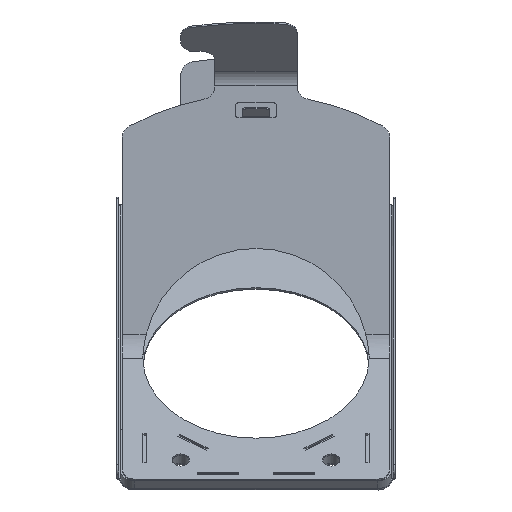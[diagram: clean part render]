
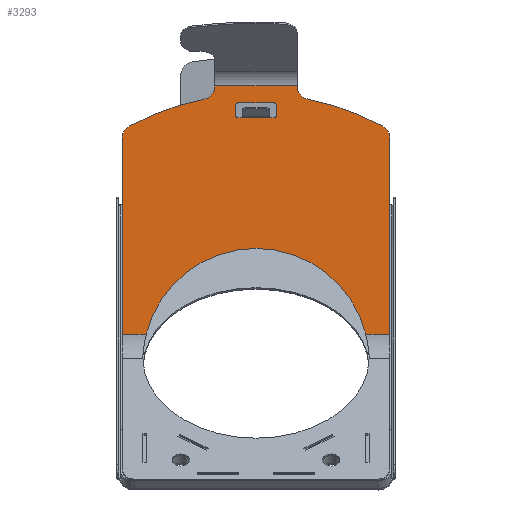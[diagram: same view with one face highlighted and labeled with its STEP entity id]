
A CAD part, top view. The second image highlights one B-rep face of the part: STEP entity #3293.
In plain terms, the highlighted planar face has unit normal (0, 0, 1) as drawn and (0, -1, 0) by its records, which use the part's own axes.
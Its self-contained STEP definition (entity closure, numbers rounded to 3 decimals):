
#3132 = VERTEX_POINT('',#3133);
#3133 = CARTESIAN_POINT('',(16.007,-27.909,
    -7.472));
#3149 = VERTEX_POINT('',#3150);
#3150 = CARTESIAN_POINT('',(0.,-27.909,
    5.026));
#3156 = EDGE_CURVE('',#3132,#3149,#3157,.T.);
#3157 = CIRCLE('',#3158,16.5);
#3158 = AXIS2_PLACEMENT_3D('',#3159,#3160,#3161);
#3159 = CARTESIAN_POINT('',(0.,-27.909,
    -11.474));
#3160 = DIRECTION('',(0.,-1.,0.));
#3161 = DIRECTION('',(0.,0.,1.));
#3293 = ADVANCED_FACE('',(#3294,#3380),#3484,.F.);
#3294 = FACE_BOUND('',#3295,.T.);
#3295 = EDGE_LOOP('',(#3296,#3307,#3315,#3324,#3332,#3340,#3348,#3357,
    #3365,#3374));
#3296 = ORIENTED_EDGE('',*,*,#3297,.F.);
#3297 = EDGE_CURVE('',#3298,#3300,#3302,.T.);
#3298 = VERTEX_POINT('',#3299);
#3299 = CARTESIAN_POINT('',(3.,-27.909,25.776));
#3300 = VERTEX_POINT('',#3301);
#3301 = CARTESIAN_POINT('',(2.5,-27.909,26.276));
#3302 = CIRCLE('',#3303,0.5);
#3303 = AXIS2_PLACEMENT_3D('',#3304,#3305,#3306);
#3304 = CARTESIAN_POINT('',(2.5,-27.909,25.776));
#3305 = DIRECTION('',(0.,-1.,0.));
#3306 = DIRECTION('',(0.,0.,-1.));
#3307 = ORIENTED_EDGE('',*,*,#3308,.F.);
#3308 = EDGE_CURVE('',#3309,#3298,#3311,.T.);
#3309 = VERTEX_POINT('',#3310);
#3310 = CARTESIAN_POINT('',(3.,-27.909,24.569));
#3311 = LINE('',#3312,#3313);
#3312 = CARTESIAN_POINT('',(3.,-27.909,-11.474));
#3313 = VECTOR('',#3314,1.);
#3314 = DIRECTION('',(0.,0.,1.));
#3315 = ORIENTED_EDGE('',*,*,#3316,.F.);
#3316 = EDGE_CURVE('',#3317,#3309,#3319,.T.);
#3317 = VERTEX_POINT('',#3318);
#3318 = CARTESIAN_POINT('',(2.5,-27.909,24.069));
#3319 = CIRCLE('',#3320,0.5);
#3320 = AXIS2_PLACEMENT_3D('',#3321,#3322,#3323);
#3321 = CARTESIAN_POINT('',(2.5,-27.909,24.569));
#3322 = DIRECTION('',(0.,-1.,0.));
#3323 = DIRECTION('',(0.,0.,-1.));
#3324 = ORIENTED_EDGE('',*,*,#3325,.F.);
#3325 = EDGE_CURVE('',#3326,#3317,#3328,.T.);
#3326 = VERTEX_POINT('',#3327);
#3327 = CARTESIAN_POINT('',(2.,-27.909,24.069));
#3328 = LINE('',#3329,#3330);
#3329 = CARTESIAN_POINT('',(0.,-27.909,
    24.069));
#3330 = VECTOR('',#3331,1.);
#3331 = DIRECTION('',(1.,0.,0.));
#3332 = ORIENTED_EDGE('',*,*,#3333,.F.);
#3333 = EDGE_CURVE('',#3334,#3326,#3336,.T.);
#3334 = VERTEX_POINT('',#3335);
#3335 = CARTESIAN_POINT('',(-2.,-27.909,24.069));
#3336 = LINE('',#3337,#3338);
#3337 = CARTESIAN_POINT('',(0.,-27.909,
    24.069));
#3338 = VECTOR('',#3339,1.);
#3339 = DIRECTION('',(1.,0.,0.));
#3340 = ORIENTED_EDGE('',*,*,#3341,.F.);
#3341 = EDGE_CURVE('',#3342,#3334,#3344,.T.);
#3342 = VERTEX_POINT('',#3343);
#3343 = CARTESIAN_POINT('',(-2.5,-27.909,24.069));
#3344 = LINE('',#3345,#3346);
#3345 = CARTESIAN_POINT('',(0.,-27.909,
    24.069));
#3346 = VECTOR('',#3347,1.);
#3347 = DIRECTION('',(1.,0.,0.));
#3348 = ORIENTED_EDGE('',*,*,#3349,.F.);
#3349 = EDGE_CURVE('',#3350,#3342,#3352,.T.);
#3350 = VERTEX_POINT('',#3351);
#3351 = CARTESIAN_POINT('',(-3.,-27.909,24.569));
#3352 = CIRCLE('',#3353,0.5);
#3353 = AXIS2_PLACEMENT_3D('',#3354,#3355,#3356);
#3354 = CARTESIAN_POINT('',(-2.5,-27.909,24.569));
#3355 = DIRECTION('',(0.,-1.,0.));
#3356 = DIRECTION('',(0.,0.,-1.));
#3357 = ORIENTED_EDGE('',*,*,#3358,.F.);
#3358 = EDGE_CURVE('',#3359,#3350,#3361,.T.);
#3359 = VERTEX_POINT('',#3360);
#3360 = CARTESIAN_POINT('',(-3.,-27.909,25.776));
#3361 = LINE('',#3362,#3363);
#3362 = CARTESIAN_POINT('',(-3.,-27.909,-11.474));
#3363 = VECTOR('',#3364,1.);
#3364 = DIRECTION('',(0.,0.,-1.));
#3365 = ORIENTED_EDGE('',*,*,#3366,.F.);
#3366 = EDGE_CURVE('',#3367,#3359,#3369,.T.);
#3367 = VERTEX_POINT('',#3368);
#3368 = CARTESIAN_POINT('',(-2.5,-27.909,26.276));
#3369 = CIRCLE('',#3370,0.5);
#3370 = AXIS2_PLACEMENT_3D('',#3371,#3372,#3373);
#3371 = CARTESIAN_POINT('',(-2.5,-27.909,25.776));
#3372 = DIRECTION('',(0.,-1.,0.));
#3373 = DIRECTION('',(0.,0.,-1.));
#3374 = ORIENTED_EDGE('',*,*,#3375,.F.);
#3375 = EDGE_CURVE('',#3300,#3367,#3376,.T.);
#3376 = LINE('',#3377,#3378);
#3377 = CARTESIAN_POINT('',(0.,-27.909,
    26.276));
#3378 = VECTOR('',#3379,1.);
#3379 = DIRECTION('',(-1.,0.,0.));
#3380 = FACE_BOUND('',#3381,.T.);
#3381 = EDGE_LOOP('',(#3382,#3393,#3402,#3410,#3418,#3425,#3426,#3434,
    #3442,#3451,#3460,#3469,#3477));
#3382 = ORIENTED_EDGE('',*,*,#3383,.F.);
#3383 = EDGE_CURVE('',#3384,#3386,#3388,.T.);
#3384 = VERTEX_POINT('',#3385);
#3385 = CARTESIAN_POINT('',(-18.446,-27.909,
    22.888));
#3386 = VERTEX_POINT('',#3387);
#3387 = CARTESIAN_POINT('',(-7.61,-27.909,
    26.776));
#3388 = CIRCLE('',#3389,39.);
#3389 = AXIS2_PLACEMENT_3D('',#3390,#3391,#3392);
#3390 = CARTESIAN_POINT('',(0.,-27.909,
    -11.474));
#3391 = DIRECTION('',(0.,1.,0.));
#3392 = DIRECTION('',(0.,0.,1.));
#3393 = ORIENTED_EDGE('',*,*,#3394,.F.);
#3394 = EDGE_CURVE('',#3395,#3384,#3397,.T.);
#3395 = VERTEX_POINT('',#3396);
#3396 = CARTESIAN_POINT('',(-19.5,-27.909,21.126));
#3397 = CIRCLE('',#3398,2.);
#3398 = AXIS2_PLACEMENT_3D('',#3399,#3400,#3401);
#3399 = CARTESIAN_POINT('',(-17.5,-27.909,21.126));
#3400 = DIRECTION('',(0.,1.,0.));
#3401 = DIRECTION('',(0.,0.,1.));
#3402 = ORIENTED_EDGE('',*,*,#3403,.F.);
#3403 = EDGE_CURVE('',#3404,#3395,#3406,.T.);
#3404 = VERTEX_POINT('',#3405);
#3405 = CARTESIAN_POINT('',(-19.5,-27.909,-7.472));
#3406 = LINE('',#3407,#3408);
#3407 = CARTESIAN_POINT('',(-19.5,-27.909,-11.474));
#3408 = VECTOR('',#3409,1.);
#3409 = DIRECTION('',(0.,0.,1.));
#3410 = ORIENTED_EDGE('',*,*,#3411,.F.);
#3411 = EDGE_CURVE('',#3412,#3404,#3414,.T.);
#3412 = VERTEX_POINT('',#3413);
#3413 = CARTESIAN_POINT('',(-16.007,-27.909,
    -7.472));
#3414 = LINE('',#3415,#3416);
#3415 = CARTESIAN_POINT('',(0.,-27.909,
    -7.472));
#3416 = VECTOR('',#3417,1.);
#3417 = DIRECTION('',(-1.,0.,0.));
#3418 = ORIENTED_EDGE('',*,*,#3419,.F.);
#3419 = EDGE_CURVE('',#3149,#3412,#3420,.T.);
#3420 = CIRCLE('',#3421,16.5);
#3421 = AXIS2_PLACEMENT_3D('',#3422,#3423,#3424);
#3422 = CARTESIAN_POINT('',(0.,-27.909,
    -11.474));
#3423 = DIRECTION('',(0.,-1.,0.));
#3424 = DIRECTION('',(0.,0.,1.));
#3425 = ORIENTED_EDGE('',*,*,#3156,.F.);
#3426 = ORIENTED_EDGE('',*,*,#3427,.F.);
#3427 = EDGE_CURVE('',#3428,#3132,#3430,.T.);
#3428 = VERTEX_POINT('',#3429);
#3429 = CARTESIAN_POINT('',(19.5,-27.909,-7.472));
#3430 = LINE('',#3431,#3432);
#3431 = CARTESIAN_POINT('',(0.,-27.909,
    -7.472));
#3432 = VECTOR('',#3433,1.);
#3433 = DIRECTION('',(-1.,0.,0.));
#3434 = ORIENTED_EDGE('',*,*,#3435,.F.);
#3435 = EDGE_CURVE('',#3436,#3428,#3438,.T.);
#3436 = VERTEX_POINT('',#3437);
#3437 = CARTESIAN_POINT('',(19.5,-27.909,21.126));
#3438 = LINE('',#3439,#3440);
#3439 = CARTESIAN_POINT('',(19.5,-27.909,-11.474));
#3440 = VECTOR('',#3441,1.);
#3441 = DIRECTION('',(0.,0.,-1.));
#3442 = ORIENTED_EDGE('',*,*,#3443,.F.);
#3443 = EDGE_CURVE('',#3444,#3436,#3446,.T.);
#3444 = VERTEX_POINT('',#3445);
#3445 = CARTESIAN_POINT('',(18.446,-27.909,
    22.888));
#3446 = CIRCLE('',#3447,2.);
#3447 = AXIS2_PLACEMENT_3D('',#3448,#3449,#3450);
#3448 = CARTESIAN_POINT('',(17.5,-27.909,21.126));
#3449 = DIRECTION('',(0.,1.,0.));
#3450 = DIRECTION('',(0.,0.,1.));
#3451 = ORIENTED_EDGE('',*,*,#3452,.F.);
#3452 = EDGE_CURVE('',#3453,#3444,#3455,.T.);
#3453 = VERTEX_POINT('',#3454);
#3454 = CARTESIAN_POINT('',(7.61,-27.909,
    26.776));
#3455 = CIRCLE('',#3456,39.);
#3456 = AXIS2_PLACEMENT_3D('',#3457,#3458,#3459);
#3457 = CARTESIAN_POINT('',(0.,-27.909,
    -11.474));
#3458 = DIRECTION('',(0.,1.,0.));
#3459 = DIRECTION('',(0.,0.,-1.));
#3460 = ORIENTED_EDGE('',*,*,#3461,.F.);
#3461 = EDGE_CURVE('',#3462,#3453,#3464,.T.);
#3462 = VERTEX_POINT('',#3463);
#3463 = CARTESIAN_POINT('',(6.,-27.909,28.738));
#3464 = CIRCLE('',#3465,2.);
#3465 = AXIS2_PLACEMENT_3D('',#3466,#3467,#3468);
#3466 = CARTESIAN_POINT('',(8.,-27.909,28.738));
#3467 = DIRECTION('',(0.,-1.,0.));
#3468 = DIRECTION('',(0.,0.,-1.));
#3469 = ORIENTED_EDGE('',*,*,#3470,.F.);
#3470 = EDGE_CURVE('',#3471,#3462,#3473,.T.);
#3471 = VERTEX_POINT('',#3472);
#3472 = CARTESIAN_POINT('',(-6.,-27.909,28.738));
#3473 = LINE('',#3474,#3475);
#3474 = CARTESIAN_POINT('',(0.,-27.909,
    28.738));
#3475 = VECTOR('',#3476,1.);
#3476 = DIRECTION('',(1.,0.,0.));
#3477 = ORIENTED_EDGE('',*,*,#3478,.F.);
#3478 = EDGE_CURVE('',#3386,#3471,#3479,.T.);
#3479 = CIRCLE('',#3480,2.);
#3480 = AXIS2_PLACEMENT_3D('',#3481,#3482,#3483);
#3481 = CARTESIAN_POINT('',(-8.,-27.909,28.738));
#3482 = DIRECTION('',(0.,-1.,0.));
#3483 = DIRECTION('',(0.,0.,-1.));
#3484 = PLANE('',#3485);
#3485 = AXIS2_PLACEMENT_3D('',#3486,#3487,#3488);
#3486 = CARTESIAN_POINT('',(0.,-27.909,
    -11.474));
#3487 = DIRECTION('',(0.,1.,0.));
#3488 = DIRECTION('',(0.,0.,1.));
